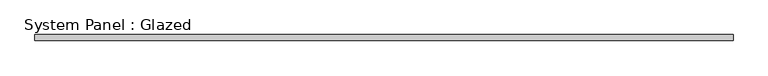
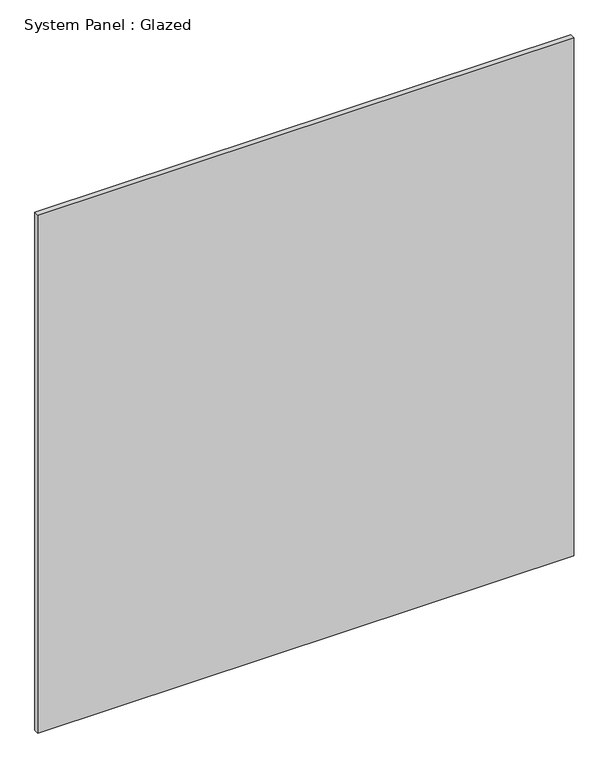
"""IFC4 building model written with IfcOpenShell, lengths in millimetres: plate geometry, System Panel : Glazed."""

import ifcopenshell
import ifcopenshell.guid

model = None  # the IFC model being written
_history = None  # IfcOwnerHistory: only IFC2X3 demands one
_inside = {}  # id of a spatial element -> (the spatial element, [elements in it])
_under = {}  # id of a project, library or spatial element -> (it, [spatial elements below it])
_declared = {}  # id of a project -> (the project, [libraries it declares])
_typed = {}  # id of a type object -> (the type object, [elements of that type])
_made_of = {}  # id of a material, layer set ... -> (it, [elements and type objects made of it])


def new_model(schema):
    """Start an empty IFC model of exactly this schema.

    Asked for "IFC4X3", IfcOpenShell would pick the latest addendum, in which some entities
    have other attributes; the version numbers below select the first issue.
    IFC2X3 requires an IfcOwnerHistory on every rooted entity: one is made here for all.
    """
    global model, _history
    if schema == "IFC4X3":
        model = ifcopenshell.file(schema_version=(4, 3, 0, 0))
    else:
        model = ifcopenshell.file(schema=schema)
    _inside.clear()
    _under.clear()
    _declared.clear()
    _typed.clear()
    _made_of.clear()
    _history = None
    if model.schema == "IFC2X3":
        org = make("IfcOrganization", Name="unknown")
        user = make(
            "IfcPersonAndOrganization",
            ThePerson=make("IfcPerson", FamilyName="unknown"),
            TheOrganization=org,
        )
        app = make(
            "IfcApplication",
            ApplicationDeveloper=org,
            Version="unknown",
            ApplicationFullName="unknown",
            ApplicationIdentifier="unknown",
        )
        _history = make(
            "IfcOwnerHistory",
            OwningUser=user,
            OwningApplication=app,
            ChangeAction="ADDED",
            CreationDate=0,
        )
    return model


def make(cls, **values):
    """One entity of the class cls with the attributes given. An attribute that is None is left unset."""
    return model.create_entity(
        cls, **{name: value for name, value in values.items() if value is not None}
    )


def rooted(cls, **values):
    """An entity with a GlobalId (a new one), such as an element, a storey or a relation."""
    return make(cls, GlobalId=ifcopenshell.guid.new(), OwnerHistory=_history, **values)


def si_unit(unit_type, name, prefix=None):
    """IfcSIUnit, for example si_unit("LENGTHUNIT", "METRE", prefix="MILLI")."""
    return make("IfcSIUnit", UnitType=unit_type, Prefix=prefix, Name=name)


def assignment(units):
    """IfcUnitAssignment: the units of a project."""
    return None if units is None else make("IfcUnitAssignment", Units=units)


def point(xyz):
    """IfcCartesianPoint."""
    return None if xyz is None else make("IfcCartesianPoint", Coordinates=xyz)


def direction(xyz):
    """IfcDirection."""
    return None if xyz is None else make("IfcDirection", DirectionRatios=xyz)


def frame(location, z_axis=None, x_axis=None):
    """IfcAxis2Placement3D, a coordinate frame: its origin and axes. An axis left out is left unset."""
    return make(
        "IfcAxis2Placement3D",
        Location=point(location),
        Axis=direction(z_axis),
        RefDirection=direction(x_axis),
    )


def origin():
    """The frame at (0, 0, 0) with its axes left unset."""
    return frame((0.0, 0.0, 0.0))


def origin_with_axes():
    """The frame at (0, 0, 0) with the z axis (0, 0, 1) and the x axis (1, 0, 0) written out."""
    return frame((0.0, 0.0, 0.0), z_axis=(0.0, 0.0, 1.0), x_axis=(1.0, 0.0, 0.0))


def place(relative_to, where):
    """IfcLocalPlacement: puts the frame where relative to a parent placement (None: the world)."""
    return make(
        "IfcLocalPlacement", PlacementRelTo=relative_to, RelativePlacement=where
    )


def context(
    kind, dimensions, precision=None, world=None, true_north=None, identifier=None
):
    """IfcGeometricRepresentationContext, for example the 3D "Model" context."""
    return make(
        "IfcGeometricRepresentationContext",
        ContextIdentifier=identifier,
        ContextType=kind,
        CoordinateSpaceDimension=dimensions,
        Precision=precision,
        WorldCoordinateSystem=world,
        TrueNorth=true_north,
    )


def project(units=None, contexts=None):
    """IfcProject with its units and contexts."""
    return rooted(
        "IfcProject",
        Name="project",
        RepresentationContexts=contexts,
        UnitsInContext=assignment(units),
    )


def spatial(cls, under=None, at=None, **own):
    """A site, building, storey or space (cls), placed at a placement, below another one or the project."""
    s = rooted(cls, ObjectPlacement=at, **own)
    if under is not None:
        _under.setdefault(under.id(), (under, []))[1].append(s)
    return s


def polyline(points):
    """IfcPolyline through the points."""
    return make("IfcPolyline", Points=[point(p) for p in points])


def outline(outer, holes=None, kind="AREA"):
    """IfcArbitraryClosedProfileDef: a profile drawn as a closed curve; with holes, ...WithVoids."""
    if holes is None:
        return make("IfcArbitraryClosedProfileDef", ProfileType=kind, OuterCurve=outer)
    return make(
        "IfcArbitraryProfileDefWithVoids",
        ProfileType=kind,
        OuterCurve=outer,
        InnerCurves=holes,
    )


def extrude(swept, where, along, depth):
    """IfcExtrudedAreaSolid: the profile swept, set in the frame where, extruded along a direction by depth."""
    return make(
        "IfcExtrudedAreaSolid",
        SweptArea=swept,
        Position=where,
        ExtrudedDirection=direction(along),
        Depth=depth,
    )


def shape(context_of_items, identifier, shape_type, items):
    """IfcShapeRepresentation: the items that make up one representation, for example the "Body"."""
    return make(
        "IfcShapeRepresentation",
        ContextOfItems=context_of_items,
        RepresentationIdentifier=identifier,
        RepresentationType=shape_type,
        Items=items,
    )


def source(mapping_origin, context_of_items, identifier, shape_type, items):
    """IfcRepresentationMap: a shape defined once, which mapped items show again and again."""
    return make(
        "IfcRepresentationMap",
        MappingOrigin=mapping_origin,
        MappedRepresentation=shape(context_of_items, identifier, shape_type, items),
    )


def transform(
    local_origin,
    x_axis=None,
    y_axis=None,
    z_axis=None,
    scale=None,
    scale2=None,
    scale3=None,
    uniform=True,
):
    """IfcCartesianTransformationOperator3D, or its non-uniform kind. x_axis, y_axis, z_axis: its Axis1, 2, 3."""
    if uniform:
        return make(
            "IfcCartesianTransformationOperator3D",
            Axis1=direction(x_axis),
            Axis2=direction(y_axis),
            LocalOrigin=point(local_origin),
            Scale=scale,
            Axis3=direction(z_axis),
        )
    return make(
        "IfcCartesianTransformationOperator3DnonUniform",
        Axis1=direction(x_axis),
        Axis2=direction(y_axis),
        LocalOrigin=point(local_origin),
        Scale=scale,
        Axis3=direction(z_axis),
        Scale2=scale2,
        Scale3=scale3,
    )


def mapped(mapping_source, mapping_target):
    """IfcMappedItem: shows the shape of a source again, moved by a transform."""
    return make(
        "IfcMappedItem", MappingSource=mapping_source, MappingTarget=mapping_target
    )


def made_of(thing, what):
    """Note that an element or type object is made of a material, layer set ...; save() writes the relation."""
    if what is not None:
        _made_of.setdefault(what.id(), (what, []))[1].append(thing)
    return thing


def element(
    cls,
    number,
    at=None,
    inside=None,
    cuts=None,
    type_object=None,
    material=None,
    context=None,
    identifier="Body",
    shape_type=None,
    held_by="IfcProductDefinitionShape",
    body=None,
    shapes=None,
    **own,
):
    """One element of the class cls, such as IfcWall. Its Tag is "e" and its number.

    at: its placement. inside: the storey or other place that contains it. cuts: it is an
    opening in that element (IfcRelVoidsElement). A single representation is given by context,
    identifier, shape_type and body (its items); several are given by shapes. held_by: the class
    of the entity that holds the representations. save() writes the other relations.
    """
    e = rooted(cls, Tag="e%d" % number, ObjectPlacement=at, **own)
    if body is not None:
        shapes = [shape(context, identifier, shape_type, body)]
    if shapes is not None:
        e.Representation = make(held_by, Representations=shapes)
    if inside is not None:
        _inside.setdefault(inside.id(), (inside, []))[1].append(e)
    if cuts is not None:
        rooted(
            "IfcRelVoidsElement", RelatingBuildingElement=cuts, RelatedOpeningElement=e
        )
    if type_object is not None:
        _typed.setdefault(type_object.id(), (type_object, []))[1].append(e)
    return made_of(e, material)


def aggregate(whole, parts):
    """IfcRelAggregates: a whole, such as a stair, and the parts it consists of."""
    return rooted("IfcRelAggregates", RelatingObject=whole, RelatedObjects=parts)


def save(model, path):
    """Write the relations noted so far, then the file.

    IfcRelAggregates (storeys below a building ...), IfcRelContainedInSpatialStructure (elements
    in a storey), IfcRelDefinesByType, IfcRelAssociatesMaterial and IfcRelDeclares: one each for
    every whole, place, type object, material and project.
    """
    for whole, parts in _under.values():
        aggregate(whole, parts)
    for where, things in _inside.values():
        rooted(
            "IfcRelContainedInSpatialStructure",
            RelatedElements=things,
            RelatingStructure=where,
        )
    for kind, things in _typed.values():
        rooted("IfcRelDefinesByType", RelatedObjects=things, RelatingType=kind)
    for what, things in _made_of.values():
        rooted("IfcRelAssociatesMaterial", RelatedObjects=things, RelatingMaterial=what)
    for by, libraries in _declared.values():
        rooted("IfcRelDeclares", RelatingContext=by, RelatedDefinitions=libraries)
    model.write(path)


def system_panel_glazed_01310f2f(model_context):
    return source(origin(), model_context, "Body", "SweptSolid", [
        extrude(outline(polyline([(1460.5, 19.05), (-1460.5, 19.05), (-1460.5, 44.45), (1460.5, 44.45), (1460.5, 19.05)])), origin_with_axes(), (0.0, 0.0, 1.0), 2984.5),
    ])


if __name__ == "__main__":
    model = new_model("IFC4")
    model_context = context("Model", 3, world=origin())
    ifc_project = project(units=[si_unit("LENGTHUNIT", "METRE", prefix="MILLI")], contexts=[model_context])
    site = spatial("IfcSite", under=ifc_project)
    building = spatial("IfcBuilding", under=site)
    placement = place(None, origin())
    system_panel_glazed_shape = system_panel_glazed_01310f2f(model_context)
    element("IfcPlate", 1, ObjectType="System Panel : Glazed", at=placement, inside=building, context=model_context, shape_type="MappedRepresentation", body=[
        mapped(system_panel_glazed_shape, transform((0.0, 0.0, 0.0), x_axis=(1.0, 0.0, 0.0), y_axis=(0.0, 1.0, 0.0), z_axis=(0.0, 0.0, 1.0))),
    ])
    save(model, "model.ifc")
